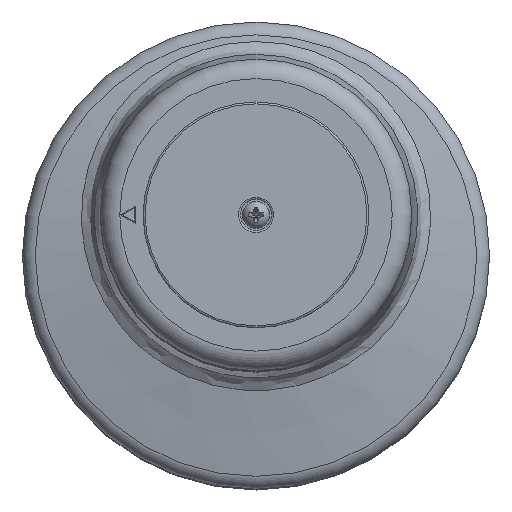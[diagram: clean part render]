
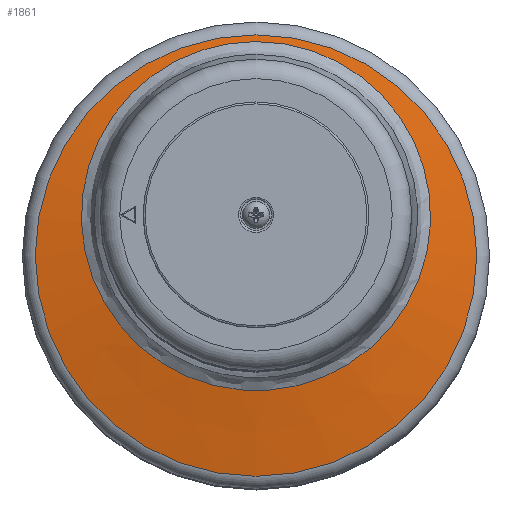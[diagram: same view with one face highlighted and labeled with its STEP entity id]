
A CAD part, top view. The second image highlights one B-rep face of the part: STEP entity #1861.
In plain terms, the highlighted conical face has half-angle 80 degrees and reference radius 45.694 mm.
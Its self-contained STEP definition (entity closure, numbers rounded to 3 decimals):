
#1861=ADVANCED_FACE('',(#5171,#5173),#5175,.T.);
#5171=FACE_OUTER_BOUND('',#5172,.T.);
#5172=EDGE_LOOP('',(#11955));
#5173=FACE_OUTER_BOUND('',#5174,.T.);
#5174=EDGE_LOOP('',(#11956));
#5175=CONICAL_SURFACE('',#5176,45.694,1.396);
#5176=AXIS2_PLACEMENT_3D('',#5177,#5178,#5179);
#5177=CARTESIAN_POINT('',(0.,17.522,0.));
#5178=DIRECTION('',(0.,-1.,0.));
#5179=DIRECTION('',(-1.,0.,0.));
#11955=ORIENTED_EDGE('',*,*,#13974,.T.);
#11956=ORIENTED_EDGE('',*,*,#13975,.F.);
#13974=EDGE_CURVE('',#14821,#14821,#14822,.T.);
#13975=EDGE_CURVE('',#14823,#14823,#14824,.T.);
#14821=VERTEX_POINT('',#17768);
#14822=B_SPLINE_CURVE_WITH_KNOTS('',3,
(#17769,#17770,#17771,#17772,#17773,#17774,#17775,#17776,#17777,#17778,#17779,#17780,
#17781,#17782,#17783,#17784,#17785,#17786,#17787,#17788,#17789,#17790,#17791,#17792,
#17793,#17794,#17795,#17796,#17797,#17798,#17799,#17800,#17801,#17802,#17803,#17804,
#17805,#17806,#17807,#17808,#17809,#17810,#17811,#17812,#17813,#17814,#17815,#17816,
#17817,#17818,#17819),
.UNSPECIFIED.,.T.,.F.,
(4,1,1,1,1,1,1,1,1,1,1,1,1,1,1,1,1,1,1,1,1,1,1,1,1,1,1,1,1,1,1,1,1,1,1,1,1,1,1,1,
1,1,1,1,1,1,1,1,4),
(0.,0.02,0.041,0.062,0.083,
0.105,0.126,0.147,0.168,0.189,
0.21,0.231,0.252,0.273,0.295,
0.316,0.337,0.358,0.379,0.401,
0.422,0.443,0.464,0.485,0.507,
0.528,0.549,0.57,0.591,0.613,
0.634,0.655,0.676,0.697,0.718,
0.74,0.761,0.782,0.803,0.824,
0.846,0.867,0.888,0.909,0.93,
0.951,0.972,0.988,1.),
.UNSPECIFIED.);
#14823=VERTEX_POINT('',#17820);
#14824=CIRCLE('',#17821,56.695);
#17768=CARTESIAN_POINT('',(-54.959,15.889,0.));
#17769=CARTESIAN_POINT('',(-54.959,15.889,0.));
#17770=CARTESIAN_POINT('',(-54.959,15.889,-1.922));
#17771=CARTESIAN_POINT('',(-54.709,15.897,-5.796));
#17772=CARTESIAN_POINT('',(-53.581,15.934,-11.546));
#17773=CARTESIAN_POINT('',(-51.687,15.995,-17.169));
#17774=CARTESIAN_POINT('',(-49.049,16.082,-22.525));
#17775=CARTESIAN_POINT('',(-45.716,16.193,-27.493));
#17776=CARTESIAN_POINT('',(-41.759,16.326,-31.971));
#17777=CARTESIAN_POINT('',(-37.247,16.48,-35.883));
#17778=CARTESIAN_POINT('',(-32.252,16.654,-39.165));
#17779=CARTESIAN_POINT('',(-26.876,16.845,-41.75));
#17780=CARTESIAN_POINT('',(-21.228,17.05,-43.594));
#17781=CARTESIAN_POINT('',(-15.385,17.268,-44.68));
#17782=CARTESIAN_POINT('',(-9.46,17.496,-44.984));
#17783=CARTESIAN_POINT('',(-3.482,17.732,-44.499));
#17784=CARTESIAN_POINT('',(2.356,17.97,-43.224));
#17785=CARTESIAN_POINT('',(8.023,18.209,-41.164));
#17786=CARTESIAN_POINT('',(13.318,18.439,-38.393));
#17787=CARTESIAN_POINT('',(18.21,18.659,-34.93));
#17788=CARTESIAN_POINT('',(22.577,18.862,-30.873));
#17789=CARTESIAN_POINT('',(26.379,19.044,-26.259));
#17790=CARTESIAN_POINT('',(29.535,19.199,-21.183));
#17791=CARTESIAN_POINT('',(31.992,19.323,-15.728));
#17792=CARTESIAN_POINT('',(33.702,19.411,-10.001));
#17793=CARTESIAN_POINT('',(34.638,19.459,-4.105));
#17794=CARTESIAN_POINT('',(34.787,19.467,1.86));
#17795=CARTESIAN_POINT('',(34.147,19.434,7.793));
#17796=CARTESIAN_POINT('',(32.724,19.36,13.604));
#17797=CARTESIAN_POINT('',(30.542,19.25,19.176));
#17798=CARTESIAN_POINT('',(27.636,19.105,24.413));
#17799=CARTESIAN_POINT('',(24.069,18.933,29.21));
#17800=CARTESIAN_POINT('',(19.895,18.737,33.491));
#17801=CARTESIAN_POINT('',(15.201,18.523,37.173));
#17802=CARTESIAN_POINT('',(10.046,18.296,40.21));
#17803=CARTESIAN_POINT('',(4.552,18.062,42.526));
#17804=CARTESIAN_POINT('',(-1.229,17.823,44.102));
#17805=CARTESIAN_POINT('',(-7.143,17.586,44.892));
#17806=CARTESIAN_POINT('',(-13.154,17.353,44.888));
#17807=CARTESIAN_POINT('',(-19.076,17.13,44.09));
#17808=CARTESIAN_POINT('',(-24.852,16.918,42.507));
#17809=CARTESIAN_POINT('',(-30.344,16.721,40.184));
#17810=CARTESIAN_POINT('',(-35.49,16.541,37.147));
#17811=CARTESIAN_POINT('',(-40.187,16.379,33.456));
#17812=CARTESIAN_POINT('',(-44.354,16.238,29.174));
#17813=CARTESIAN_POINT('',(-47.917,16.119,24.377));
#17814=CARTESIAN_POINT('',(-50.811,16.024,19.154));
#17815=CARTESIAN_POINT('',(-52.979,15.953,13.617));
#17816=CARTESIAN_POINT('',(-54.29,15.911,8.291));
#17817=CARTESIAN_POINT('',(-54.862,15.892,3.729));
#17818=CARTESIAN_POINT('',(-54.959,15.889,1.101));
#17819=CARTESIAN_POINT('',(-54.959,15.889,0.));
#17820=CARTESIAN_POINT('',(-56.695,15.583,0.));
#17821=AXIS2_PLACEMENT_3D('',#17822,#17823,#17824);
#17822=CARTESIAN_POINT('',(0.,15.583,0.));
#17823=DIRECTION('',(0.,-1.,0.));
#17824=DIRECTION('',(-1.,0.,0.));
